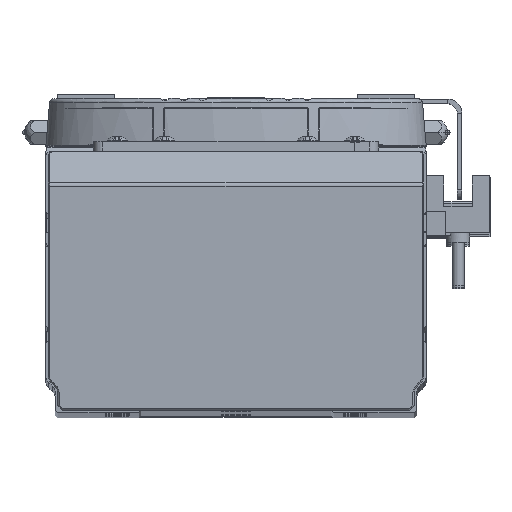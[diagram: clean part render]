
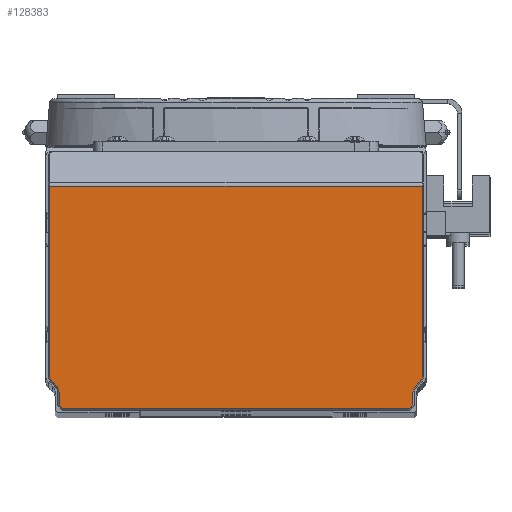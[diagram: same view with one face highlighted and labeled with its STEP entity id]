
A CAD part, top view. The second image highlights one B-rep face of the part: STEP entity #128383.
In plain terms, the highlighted planar face has unit normal (0, 0, 1).
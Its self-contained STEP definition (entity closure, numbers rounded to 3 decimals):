
#343 = VERTEX_POINT ( 'NONE', #66715 ) ;
#4785 = VERTEX_POINT ( 'NONE', #90809 ) ;
#5226 = DIRECTION ( 'NONE',  ( 0., 1., 0. ) ) ;
#5270 = DIRECTION ( 'NONE',  ( 0., -1., 0. ) ) ;
#8274 = VECTOR ( 'NONE', #56405, 1000. ) ;
#9539 = EDGE_CURVE ( 'NONE', #62367, #63503, #99988, .T. ) ;
#10907 = ORIENTED_EDGE ( 'NONE', *, *, #96848, .T. ) ;
#11034 = CARTESIAN_POINT ( 'NONE',  ( -39.5, 25.586, 1010. ) ) ;
#11327 = CARTESIAN_POINT ( 'NONE',  ( 39.2, 25.586, 1010. ) ) ;
#11739 = DIRECTION ( 'NONE',  ( 0., 1., 0. ) ) ;
#12586 = VECTOR ( 'NONE', #5270, 1000. ) ;
#12748 = CARTESIAN_POINT ( 'NONE',  ( 31.538, -22.538, 1010. ) ) ;
#13732 = CARTESIAN_POINT ( 'NONE',  ( -39.5, -17.828, 1010. ) ) ;
#14877 = CARTESIAN_POINT ( 'NONE',  ( -31.538, -22.538, 1010. ) ) ;
#15231 = AXIS2_PLACEMENT_3D ( 'NONE', #81302, #125007, #26912 ) ;
#16461 = ORIENTED_EDGE ( 'NONE', *, *, #52085, .T. ) ;
#17054 = AXIS2_PLACEMENT_3D ( 'NONE', #33119, #76775, #120462 ) ;
#17133 = EDGE_CURVE ( 'NONE', #35492, #4785, #76910, .T. ) ;
#19313 = VECTOR ( 'NONE', #40788, 1000. ) ;
#24853 = ORIENTED_EDGE ( 'NONE', *, *, #141613, .T. ) ;
#26912 = DIRECTION ( 'NONE',  ( -1., 0., 0. ) ) ;
#27650 = VECTOR ( 'NONE', #11739, 1000. ) ;
#28607 = CARTESIAN_POINT ( 'NONE',  ( 37.288, -20.288, 1010. ) ) ;
#30091 = DIRECTION ( 'NONE',  ( -1., 0., 0. ) ) ;
#31157 = VECTOR ( 'NONE', #58501, 1000. ) ;
#33119 = CARTESIAN_POINT ( 'NONE',  ( -37.5, -14.172, 1010. ) ) ;
#34873 = ORIENTED_EDGE ( 'NONE', *, *, #114124, .T. ) ;
#35492 = VERTEX_POINT ( 'NONE', #123412 ) ;
#38236 = AXIS2_PLACEMENT_3D ( 'NONE', #13732, #57381, #101052 ) ;
#38468 = DIRECTION ( 'NONE',  ( 1., 0., 0. ) ) ;
#38785 = DIRECTION ( 'NONE',  ( 0., 0., 1. ) ) ;
#38991 = CARTESIAN_POINT ( 'NONE',  ( -36.376, -21.2, 1010. ) ) ;
#40783 = PLANE ( 'NONE',  #130650 ) ;
#40788 = DIRECTION ( 'NONE',  ( 0.707, -0.707, 0. ) ) ;
#41406 = VERTEX_POINT ( 'NONE', #86637 ) ;
#43534 = CARTESIAN_POINT ( 'NONE',  ( -39.2, 9., 1010. ) ) ;
#46388 = EDGE_CURVE ( 'NONE', #4785, #75875, #110806, .T. ) ;
#46468 = EDGE_CURVE ( 'NONE', #343, #62367, #112928, .T. ) ;
#52085 = EDGE_CURVE ( 'NONE', #41406, #35492, #66100, .T. ) ;
#53357 = CARTESIAN_POINT ( 'NONE',  ( 39.2, -14.172, 1010. ) ) ;
#54677 = DIRECTION ( 'NONE',  ( -1., 0., 0. ) ) ;
#55572 = CARTESIAN_POINT ( 'NONE',  ( -39.2, -14.172, 1010. ) ) ;
#56405 = DIRECTION ( 'NONE',  ( 0.707, 0.707, 0. ) ) ;
#57381 = DIRECTION ( 'NONE',  ( 0., 0., -1. ) ) ;
#58501 = DIRECTION ( 'NONE',  ( 0.707, -0.707, 0. ) ) ;
#59496 = CARTESIAN_POINT ( 'NONE',  ( 38.702, -15.374, 1010. ) ) ;
#59601 = LINE ( 'NONE', #103271, #89112 ) ;
#59647 = LINE ( 'NONE', #103316, #12586 ) ;
#62367 = VERTEX_POINT ( 'NONE', #86131 ) ;
#62748 = VECTOR ( 'NONE', #54677, 1000. ) ;
#62853 = VERTEX_POINT ( 'NONE', #75771 ) ;
#63503 = VERTEX_POINT ( 'NONE', #111355 ) ;
#66100 = LINE ( 'NONE', #109789, #27650 ) ;
#66715 = CARTESIAN_POINT ( 'NONE',  ( -38.702, -15.374, 1010. ) ) ;
#68608 = AXIS2_PLACEMENT_3D ( 'NONE', #136901, #38785, #82480 ) ;
#71302 = ORIENTED_EDGE ( 'NONE', *, *, #46388, .T. ) ;
#72240 = DIRECTION ( 'NONE',  ( 0.707, 0.707, 0. ) ) ;
#72281 = ORIENTED_EDGE ( 'NONE', *, *, #85903, .T. ) ;
#73633 = EDGE_LOOP ( 'NONE', ( #95794, #111985, #24853, #127708, #10907, #108539, #135994, #84689, #120905, #34873, #72281, #16461, #140137, #71302 ) ) ;
#73931 = VERTEX_POINT ( 'NONE', #38991 ) ;
#75771 = CARTESIAN_POINT ( 'NONE',  ( -37.2, -20.376, 1010. ) ) ;
#75875 = VERTEX_POINT ( 'NONE', #59496 ) ;
#76775 = DIRECTION ( 'NONE',  ( 0., 0., 1. ) ) ;
#76910 = CIRCLE ( 'NONE', #15231, 2.3 ) ;
#78773 = CIRCLE ( 'NONE', #17054, 1.7 ) ;
#78823 = VERTEX_POINT ( 'NONE', #55572 ) ;
#81302 = CARTESIAN_POINT ( 'NONE',  ( 39.5, -17.828, 1010. ) ) ;
#82480 = DIRECTION ( 'NONE',  ( -1., 0., 0. ) ) ;
#84468 = CARTESIAN_POINT ( 'NONE',  ( 0., 9., 1010. ) ) ;
#84689 = ORIENTED_EDGE ( 'NONE', *, *, #130592, .T. ) ;
#85467 = EDGE_CURVE ( 'NONE', #75875, #129437, #130383, .T. ) ;
#85903 = EDGE_CURVE ( 'NONE', #90865, #41406, #126724, .T. ) ;
#86131 = CARTESIAN_POINT ( 'NONE',  ( -37.874, -16.202, 1010. ) ) ;
#86637 = CARTESIAN_POINT ( 'NONE',  ( 37.2, -20.376, 1010. ) ) ;
#87179 = DIRECTION ( 'NONE',  ( 0., -1., 0. ) ) ;
#89112 = VECTOR ( 'NONE', #5226, 1000. ) ;
#90809 = CARTESIAN_POINT ( 'NONE',  ( 37.874, -16.202, 1010. ) ) ;
#90865 = VERTEX_POINT ( 'NONE', #102386 ) ;
#92877 = LINE ( 'NONE', #136575, #128288 ) ;
#95208 = LINE ( 'NONE', #138894, #19313 ) ;
#95374 = EDGE_CURVE ( 'NONE', #62853, #73931, #95208, .T. ) ;
#95794 = ORIENTED_EDGE ( 'NONE', *, *, #85467, .T. ) ;
#96848 = EDGE_CURVE ( 'NONE', #78823, #343, #78773, .T. ) ;
#98460 = VECTOR ( 'NONE', #72240, 1000. ) ;
#99988 = CIRCLE ( 'NONE', #38236, 2.3 ) ;
#101052 = DIRECTION ( 'NONE',  ( -1., 0., 0. ) ) ;
#102386 = CARTESIAN_POINT ( 'NONE',  ( 36.376, -21.2, 1010. ) ) ;
#103271 = CARTESIAN_POINT ( 'NONE',  ( 39.2, 9., 1010. ) ) ;
#103316 = CARTESIAN_POINT ( 'NONE',  ( -37.2, 9., 1010. ) ) ;
#108539 = ORIENTED_EDGE ( 'NONE', *, *, #46468, .T. ) ;
#109069 = LINE ( 'NONE', #11034, #62748 ) ;
#109789 = CARTESIAN_POINT ( 'NONE',  ( 37.2, 9., 1010. ) ) ;
#110806 = LINE ( 'NONE', #12748, #8274 ) ;
#111355 = CARTESIAN_POINT ( 'NONE',  ( -37.2, -17.828, 1010. ) ) ;
#111985 = ORIENTED_EDGE ( 'NONE', *, *, #113275, .T. ) ;
#112928 = LINE ( 'NONE', #14877, #31157 ) ;
#113275 = EDGE_CURVE ( 'NONE', #129437, #117367, #59601, .T. ) ;
#114124 = EDGE_CURVE ( 'NONE', #73931, #90865, #92877, .T. ) ;
#117348 = EDGE_CURVE ( 'NONE', #131601, #78823, #141609, .T. ) ;
#117367 = VERTEX_POINT ( 'NONE', #11327 ) ;
#119917 = CARTESIAN_POINT ( 'NONE',  ( -39.2, 25.586, 1010. ) ) ;
#120462 = DIRECTION ( 'NONE',  ( -1., 0., 0. ) ) ;
#120905 = ORIENTED_EDGE ( 'NONE', *, *, #95374, .T. ) ;
#123412 = CARTESIAN_POINT ( 'NONE',  ( 37.2, -17.828, 1010. ) ) ;
#124294 = VECTOR ( 'NONE', #87179, 1000. ) ;
#125007 = DIRECTION ( 'NONE',  ( 0., 0., -1. ) ) ;
#126724 = LINE ( 'NONE', #28607, #98460 ) ;
#127708 = ORIENTED_EDGE ( 'NONE', *, *, #117348, .T. ) ;
#128183 = DIRECTION ( 'NONE',  ( 0., 0., -1. ) ) ;
#128288 = VECTOR ( 'NONE', #38468, 1000. ) ;
#128383 = ADVANCED_FACE ( 'NONE', ( #138886 ), #40783, .F. ) ;
#129437 = VERTEX_POINT ( 'NONE', #53357 ) ;
#130383 = CIRCLE ( 'NONE', #68608, 1.7 ) ;
#130592 = EDGE_CURVE ( 'NONE', #63503, #62853, #59647, .T. ) ;
#130650 = AXIS2_PLACEMENT_3D ( 'NONE', #84468, #128183, #30091 ) ;
#131601 = VERTEX_POINT ( 'NONE', #119917 ) ;
#135994 = ORIENTED_EDGE ( 'NONE', *, *, #9539, .T. ) ;
#136575 = CARTESIAN_POINT ( 'NONE',  ( 0., -21.2, 1010. ) ) ;
#136901 = CARTESIAN_POINT ( 'NONE',  ( 37.5, -14.172, 1010. ) ) ;
#138886 = FACE_OUTER_BOUND ( 'NONE', #73633, .T. ) ;
#138894 = CARTESIAN_POINT ( 'NONE',  ( -36.288, -21.288, 1010. ) ) ;
#140137 = ORIENTED_EDGE ( 'NONE', *, *, #17133, .T. ) ;
#141609 = LINE ( 'NONE', #43534, #124294 ) ;
#141613 = EDGE_CURVE ( 'NONE', #117367, #131601, #109069, .T. ) ;
